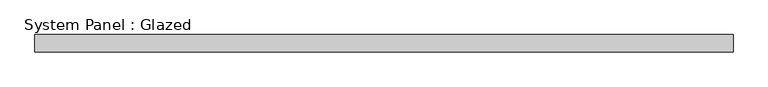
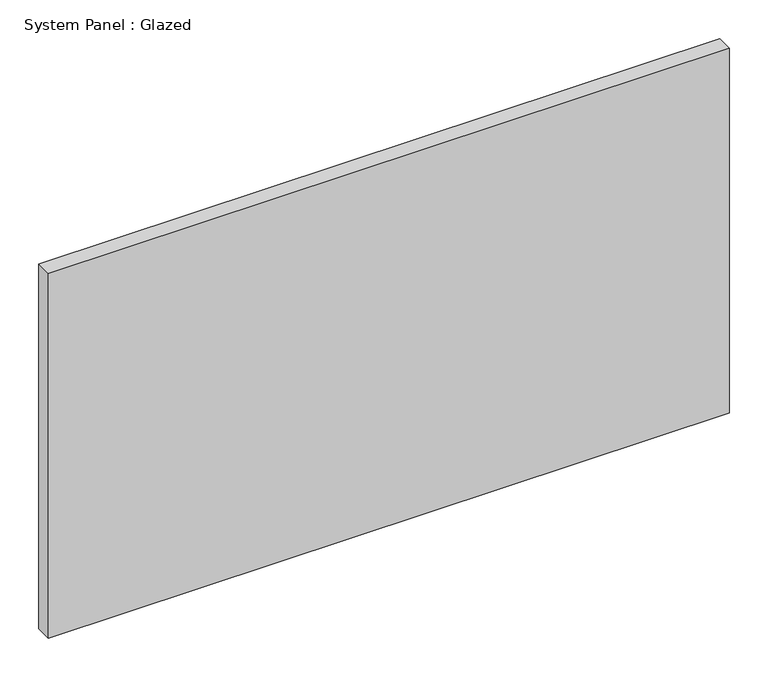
"""IFC4 building model written with IfcOpenShell, lengths in millimetres: plate geometry, System Panel : Glazed."""

import ifcopenshell
import ifcopenshell.guid

model = None  # the IFC model being written
_history = None  # IfcOwnerHistory: only IFC2X3 demands one
_inside = {}  # id of a spatial element -> (the spatial element, [elements in it])
_under = {}  # id of a project, library or spatial element -> (it, [spatial elements below it])
_declared = {}  # id of a project -> (the project, [libraries it declares])
_typed = {}  # id of a type object -> (the type object, [elements of that type])
_made_of = {}  # id of a material, layer set ... -> (it, [elements and type objects made of it])


def new_model(schema):
    """Start an empty IFC model of exactly this schema.

    Asked for "IFC4X3", IfcOpenShell would pick the latest addendum, in which some entities
    have other attributes; the version numbers below select the first issue.
    IFC2X3 requires an IfcOwnerHistory on every rooted entity: one is made here for all.
    """
    global model, _history
    if schema == "IFC4X3":
        model = ifcopenshell.file(schema_version=(4, 3, 0, 0))
    else:
        model = ifcopenshell.file(schema=schema)
    _inside.clear()
    _under.clear()
    _declared.clear()
    _typed.clear()
    _made_of.clear()
    _history = None
    if model.schema == "IFC2X3":
        org = make("IfcOrganization", Name="unknown")
        user = make(
            "IfcPersonAndOrganization",
            ThePerson=make("IfcPerson", FamilyName="unknown"),
            TheOrganization=org,
        )
        app = make(
            "IfcApplication",
            ApplicationDeveloper=org,
            Version="unknown",
            ApplicationFullName="unknown",
            ApplicationIdentifier="unknown",
        )
        _history = make(
            "IfcOwnerHistory",
            OwningUser=user,
            OwningApplication=app,
            ChangeAction="ADDED",
            CreationDate=0,
        )
    return model


def make(cls, **values):
    """One entity of the class cls with the attributes given. An attribute that is None is left unset."""
    return model.create_entity(
        cls, **{name: value for name, value in values.items() if value is not None}
    )


def rooted(cls, **values):
    """An entity with a GlobalId (a new one), such as an element, a storey or a relation."""
    return make(cls, GlobalId=ifcopenshell.guid.new(), OwnerHistory=_history, **values)


def si_unit(unit_type, name, prefix=None):
    """IfcSIUnit, for example si_unit("LENGTHUNIT", "METRE", prefix="MILLI")."""
    return make("IfcSIUnit", UnitType=unit_type, Prefix=prefix, Name=name)


def assignment(units):
    """IfcUnitAssignment: the units of a project."""
    return None if units is None else make("IfcUnitAssignment", Units=units)


def point(xyz):
    """IfcCartesianPoint."""
    return None if xyz is None else make("IfcCartesianPoint", Coordinates=xyz)


def direction(xyz):
    """IfcDirection."""
    return None if xyz is None else make("IfcDirection", DirectionRatios=xyz)


def frame(location, z_axis=None, x_axis=None):
    """IfcAxis2Placement3D, a coordinate frame: its origin and axes. An axis left out is left unset."""
    return make(
        "IfcAxis2Placement3D",
        Location=point(location),
        Axis=direction(z_axis),
        RefDirection=direction(x_axis),
    )


def origin():
    """The frame at (0, 0, 0) with its axes left unset."""
    return frame((0.0, 0.0, 0.0))


def origin_with_axes():
    """The frame at (0, 0, 0) with the z axis (0, 0, 1) and the x axis (1, 0, 0) written out."""
    return frame((0.0, 0.0, 0.0), z_axis=(0.0, 0.0, 1.0), x_axis=(1.0, 0.0, 0.0))


def place(relative_to, where):
    """IfcLocalPlacement: puts the frame where relative to a parent placement (None: the world)."""
    return make(
        "IfcLocalPlacement", PlacementRelTo=relative_to, RelativePlacement=where
    )


def context(
    kind, dimensions, precision=None, world=None, true_north=None, identifier=None
):
    """IfcGeometricRepresentationContext, for example the 3D "Model" context."""
    return make(
        "IfcGeometricRepresentationContext",
        ContextIdentifier=identifier,
        ContextType=kind,
        CoordinateSpaceDimension=dimensions,
        Precision=precision,
        WorldCoordinateSystem=world,
        TrueNorth=true_north,
    )


def project(units=None, contexts=None):
    """IfcProject with its units and contexts."""
    return rooted(
        "IfcProject",
        Name="project",
        RepresentationContexts=contexts,
        UnitsInContext=assignment(units),
    )


def spatial(cls, under=None, at=None, **own):
    """A site, building, storey or space (cls), placed at a placement, below another one or the project."""
    s = rooted(cls, ObjectPlacement=at, **own)
    if under is not None:
        _under.setdefault(under.id(), (under, []))[1].append(s)
    return s


def polyline(points):
    """IfcPolyline through the points."""
    return make("IfcPolyline", Points=[point(p) for p in points])


def outline(outer, holes=None, kind="AREA"):
    """IfcArbitraryClosedProfileDef: a profile drawn as a closed curve; with holes, ...WithVoids."""
    if holes is None:
        return make("IfcArbitraryClosedProfileDef", ProfileType=kind, OuterCurve=outer)
    return make(
        "IfcArbitraryProfileDefWithVoids",
        ProfileType=kind,
        OuterCurve=outer,
        InnerCurves=holes,
    )


def extrude(swept, where, along, depth):
    """IfcExtrudedAreaSolid: the profile swept, set in the frame where, extruded along a direction by depth."""
    return make(
        "IfcExtrudedAreaSolid",
        SweptArea=swept,
        Position=where,
        ExtrudedDirection=direction(along),
        Depth=depth,
    )


def shape(context_of_items, identifier, shape_type, items):
    """IfcShapeRepresentation: the items that make up one representation, for example the "Body"."""
    return make(
        "IfcShapeRepresentation",
        ContextOfItems=context_of_items,
        RepresentationIdentifier=identifier,
        RepresentationType=shape_type,
        Items=items,
    )


def source(mapping_origin, context_of_items, identifier, shape_type, items):
    """IfcRepresentationMap: a shape defined once, which mapped items show again and again."""
    return make(
        "IfcRepresentationMap",
        MappingOrigin=mapping_origin,
        MappedRepresentation=shape(context_of_items, identifier, shape_type, items),
    )


def transform(
    local_origin,
    x_axis=None,
    y_axis=None,
    z_axis=None,
    scale=None,
    scale2=None,
    scale3=None,
    uniform=True,
):
    """IfcCartesianTransformationOperator3D, or its non-uniform kind. x_axis, y_axis, z_axis: its Axis1, 2, 3."""
    if uniform:
        return make(
            "IfcCartesianTransformationOperator3D",
            Axis1=direction(x_axis),
            Axis2=direction(y_axis),
            LocalOrigin=point(local_origin),
            Scale=scale,
            Axis3=direction(z_axis),
        )
    return make(
        "IfcCartesianTransformationOperator3DnonUniform",
        Axis1=direction(x_axis),
        Axis2=direction(y_axis),
        LocalOrigin=point(local_origin),
        Scale=scale,
        Axis3=direction(z_axis),
        Scale2=scale2,
        Scale3=scale3,
    )


def mapped(mapping_source, mapping_target):
    """IfcMappedItem: shows the shape of a source again, moved by a transform."""
    return make(
        "IfcMappedItem", MappingSource=mapping_source, MappingTarget=mapping_target
    )


def made_of(thing, what):
    """Note that an element or type object is made of a material, layer set ...; save() writes the relation."""
    if what is not None:
        _made_of.setdefault(what.id(), (what, []))[1].append(thing)
    return thing


def element(
    cls,
    number,
    at=None,
    inside=None,
    cuts=None,
    type_object=None,
    material=None,
    context=None,
    identifier="Body",
    shape_type=None,
    held_by="IfcProductDefinitionShape",
    body=None,
    shapes=None,
    **own,
):
    """One element of the class cls, such as IfcWall. Its Tag is "e" and its number.

    at: its placement. inside: the storey or other place that contains it. cuts: it is an
    opening in that element (IfcRelVoidsElement). A single representation is given by context,
    identifier, shape_type and body (its items); several are given by shapes. held_by: the class
    of the entity that holds the representations. save() writes the other relations.
    """
    e = rooted(cls, Tag="e%d" % number, ObjectPlacement=at, **own)
    if body is not None:
        shapes = [shape(context, identifier, shape_type, body)]
    if shapes is not None:
        e.Representation = make(held_by, Representations=shapes)
    if inside is not None:
        _inside.setdefault(inside.id(), (inside, []))[1].append(e)
    if cuts is not None:
        rooted(
            "IfcRelVoidsElement", RelatingBuildingElement=cuts, RelatedOpeningElement=e
        )
    if type_object is not None:
        _typed.setdefault(type_object.id(), (type_object, []))[1].append(e)
    return made_of(e, material)


def aggregate(whole, parts):
    """IfcRelAggregates: a whole, such as a stair, and the parts it consists of."""
    return rooted("IfcRelAggregates", RelatingObject=whole, RelatedObjects=parts)


def save(model, path):
    """Write the relations noted so far, then the file.

    IfcRelAggregates (storeys below a building ...), IfcRelContainedInSpatialStructure (elements
    in a storey), IfcRelDefinesByType, IfcRelAssociatesMaterial and IfcRelDeclares: one each for
    every whole, place, type object, material and project.
    """
    for whole, parts in _under.values():
        aggregate(whole, parts)
    for where, things in _inside.values():
        rooted(
            "IfcRelContainedInSpatialStructure",
            RelatedElements=things,
            RelatingStructure=where,
        )
    for kind, things in _typed.values():
        rooted("IfcRelDefinesByType", RelatedObjects=things, RelatingType=kind)
    for what, things in _made_of.values():
        rooted("IfcRelAssociatesMaterial", RelatedObjects=things, RelatingMaterial=what)
    for by, libraries in _declared.values():
        rooted("IfcRelDeclares", RelatingContext=by, RelatedDefinitions=libraries)
    model.write(path)


def system_panel_glazed_466595f5(model_context):
    return source(origin(), model_context, "Body", "SweptSolid", [
        extrude(outline(polyline([(507.5, -12.5), (-507.5, -12.5), (-507.5, 12.5), (507.5, 12.5), (507.5, -12.5)])), origin_with_axes(), (0.0, 0.0, 1.0), 575.0),
    ])


if __name__ == "__main__":
    model = new_model("IFC4")
    model_context = context("Model", 3, world=origin())
    ifc_project = project(units=[si_unit("LENGTHUNIT", "METRE", prefix="MILLI")], contexts=[model_context])
    site = spatial("IfcSite", under=ifc_project)
    building = spatial("IfcBuilding", under=site)
    placement = place(None, origin())
    system_panel_glazed_shape = system_panel_glazed_466595f5(model_context)
    element("IfcPlate", 1, ObjectType="System Panel : Glazed", at=placement, inside=building, context=model_context, shape_type="MappedRepresentation", body=[
        mapped(system_panel_glazed_shape, transform((0.0, 0.0, 0.0), x_axis=(1.0, 0.0, 0.0), y_axis=(0.0, 1.0, 0.0), z_axis=(0.0, 0.0, 1.0))),
    ])
    save(model, "model.ifc")
